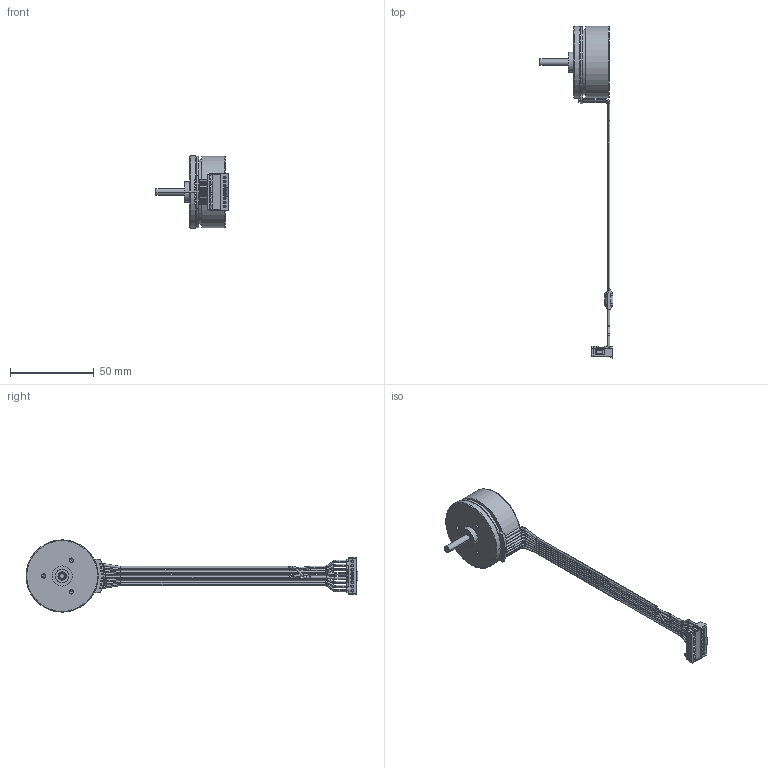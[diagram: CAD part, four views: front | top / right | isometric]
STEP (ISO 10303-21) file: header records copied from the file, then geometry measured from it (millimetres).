
FILE_DESCRIPTION((''),'2;1');
FILE_NAME('400108_1169525','2019-05-28T',('mmagtrue'),(''),'CREO PARAMETRIC BY PTC INC, 2017020','CREO PARAMETRIC BY PTC INC, 2017020','');
FILE_SCHEMA(('CONFIG_CONTROL_DESIGN'));
Length unit declared in the file: millimetre
Products named in the file (1): 400108_1169525
Bounding box: 44.1 x 198.5 x 43.2 mm (x, y, z)
Volume: 34029.6 mm3; surface area: 14787.5 mm2
Topology: 2 solids, 2 shells, 692 faces, 1819 edges, 1143 vertices
Faces by surface type: plane 306, cylinder 264, torus 94, cone 28
Entity records: 30488 total; most frequent: CARTESIAN_POINT 4782, DIRECTION 3727, ORIENTED_EDGE 3626, PRESENTATION_STYLE_ASSIGNMENT 2183, STYLED_ITEM 1815, CURVE_STYLE 1813, EDGE_CURVE 1813, AXIS2_PLACEMENT_3D 1346
